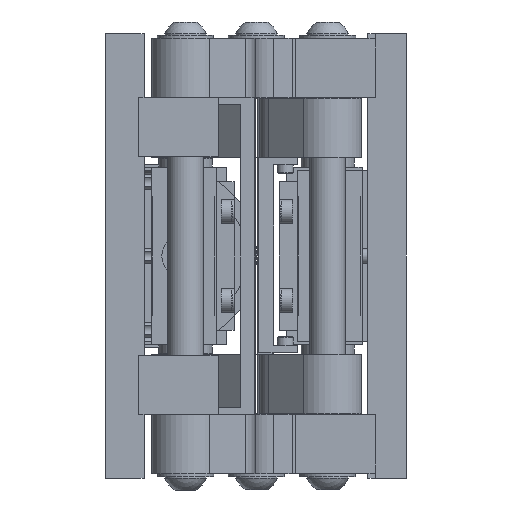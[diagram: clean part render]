
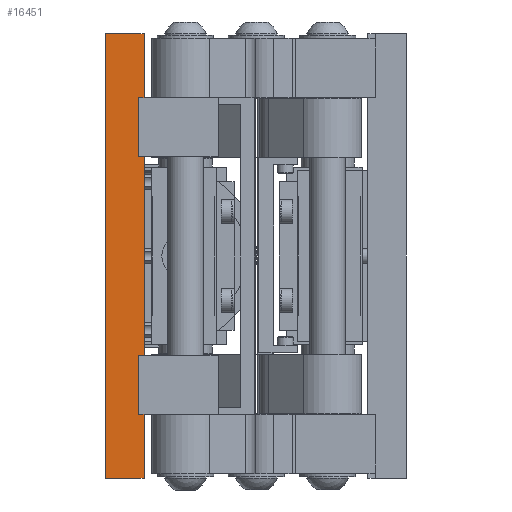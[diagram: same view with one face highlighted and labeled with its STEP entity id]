
A CAD part, left-side view. The second image highlights one B-rep face of the part: STEP entity #16451.
In plain terms, the highlighted planar face has unit normal (-1, 0, 0).
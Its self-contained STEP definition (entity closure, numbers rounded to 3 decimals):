
#213 = FACE_OUTER_BOUND ( 'NONE', #9180, .T. ) ;
#2365 = CARTESIAN_POINT ( 'NONE',  ( -188.243, 72.38, -53.5 ) ) ;
#2387 = CARTESIAN_POINT ( 'NONE',  ( -188.243, 83.38, -75. ) ) ;
#2402 = CARTESIAN_POINT ( 'NONE',  ( -188.243, 70.38, -53.5 ) ) ;
#2577 = CARTESIAN_POINT ( 'NONE',  ( -188.243, 70.38, -75. ) ) ;
#2586 = CARTESIAN_POINT ( 'NONE',  ( -188.243, 70.38, 75. ) ) ;
#2592 = CARTESIAN_POINT ( 'NONE',  ( -188.243, 72.38, -33.5 ) ) ;
#2593 = CARTESIAN_POINT ( 'NONE',  ( -188.243, 72.38, 53.5 ) ) ;
#2596 = CARTESIAN_POINT ( 'NONE',  ( -188.243, 83.38, 75. ) ) ;
#2599 = CARTESIAN_POINT ( 'NONE',  ( -188.243, 72.38, 33.5 ) ) ;
#2611 = CARTESIAN_POINT ( 'NONE',  ( -188.243, 70.38, 53.5 ) ) ;
#2612 = CARTESIAN_POINT ( 'NONE',  ( -188.243, 70.38, 33.5 ) ) ;
#4970 = LINE ( 'NONE', #12891, #4973 ) ;
#4973 = VECTOR ( 'NONE', #12893, 1000. ) ;
#4976 = LINE ( 'NONE', #12906, #4977 ) ;
#4977 = VECTOR ( 'NONE', #12907, 1000. ) ;
#4996 = LINE ( 'NONE', #12956, #5005 ) ;
#5005 = VECTOR ( 'NONE', #12968, 1000. ) ;
#5014 = LINE ( 'NONE', #12985, #5016 ) ;
#5016 = VECTOR ( 'NONE', #12982, 1000. ) ;
#5036 = LINE ( 'NONE', #13049, #5038 ) ;
#5038 = VECTOR ( 'NONE', #13042, 1000. ) ;
#5048 = LINE ( 'NONE', #13091, #5056 ) ;
#5056 = VECTOR ( 'NONE', #13103, 1000. ) ;
#5061 = LINE ( 'NONE', #13119, #5068 ) ;
#5067 = LINE ( 'NONE', #13124, #5074 ) ;
#5068 = VECTOR ( 'NONE', #13123, 1000. ) ;
#5069 = LINE ( 'NONE', #13132, #5070 ) ;
#5070 = VECTOR ( 'NONE', #13133, 1000. ) ;
#5071 = LINE ( 'NONE', #13144, #5082 ) ;
#5074 = VECTOR ( 'NONE', #13137, 1000. ) ;
#5075 = LINE ( 'NONE', #13142, #5076 ) ;
#5076 = VECTOR ( 'NONE', #13143, 1000. ) ;
#5077 = LINE ( 'NONE', #13151, #5078 ) ;
#5078 = VECTOR ( 'NONE', #13152, 1000. ) ;
#5082 = VECTOR ( 'NONE', #13155, 1000. ) ;
#9180 = EDGE_LOOP ( 'NONE', ( #18112, #18114, #18116, #18117, #18119, #18121, #18123, #18125, #29560, #29561, #29562, #29563 ) ) ;
#12891 = CARTESIAN_POINT ( 'NONE',  ( -188.243, 83.38, -53.5 ) ) ;
#12893 = DIRECTION ( 'NONE',  ( 0., 1., 0. ) ) ;
#12906 = CARTESIAN_POINT ( 'NONE',  ( -188.243, 83.38, -75. ) ) ;
#12907 = DIRECTION ( 'NONE',  ( 0., -1., 0. ) ) ;
#12956 = CARTESIAN_POINT ( 'NONE',  ( -188.243, 83.38, 75. ) ) ;
#12968 = DIRECTION ( 'NONE',  ( 0., -1., 0. ) ) ;
#12982 = DIRECTION ( 'NONE',  ( 0., -1., 0. ) ) ;
#12985 = CARTESIAN_POINT ( 'NONE',  ( -188.243, 83.38, 53.5 ) ) ;
#13042 = DIRECTION ( 'NONE',  ( 0., 0., -1. ) ) ;
#13049 = CARTESIAN_POINT ( 'NONE',  ( -188.243, 72.38, 75. ) ) ;
#13091 = CARTESIAN_POINT ( 'NONE',  ( -188.243, 83.38, 33.5 ) ) ;
#13103 = DIRECTION ( 'NONE',  ( 0., 1., 0. ) ) ;
#13119 = CARTESIAN_POINT ( 'NONE',  ( -188.243, 83.38, -33.5 ) ) ;
#13123 = DIRECTION ( 'NONE',  ( 0., -1., 0. ) ) ;
#13124 = CARTESIAN_POINT ( 'NONE',  ( -188.243, 70.38, 75. ) ) ;
#13132 = CARTESIAN_POINT ( 'NONE',  ( -188.243, 72.38, 75. ) ) ;
#13133 = DIRECTION ( 'NONE',  ( 0., 0., -1. ) ) ;
#13137 = DIRECTION ( 'NONE',  ( 0., 0., 1. ) ) ;
#13142 = CARTESIAN_POINT ( 'NONE',  ( -188.243, 70.38, 75. ) ) ;
#13143 = DIRECTION ( 'NONE',  ( 0., 0., 1. ) ) ;
#13144 = CARTESIAN_POINT ( 'NONE',  ( -188.243, 70.38, 75. ) ) ;
#13151 = CARTESIAN_POINT ( 'NONE',  ( -188.243, 83.38, 75. ) ) ;
#13152 = DIRECTION ( 'NONE',  ( 0., 0., 1. ) ) ;
#13155 = DIRECTION ( 'NONE',  ( 0., 0., 1. ) ) ;
#16451 = ADVANCED_FACE ( 'NONE', ( #213 ), #33881, .F. ) ;
#17506 = VERTEX_POINT ( 'NONE', #2365 ) ;
#17521 = VERTEX_POINT ( 'NONE', #2387 ) ;
#17531 = VERTEX_POINT ( 'NONE', #2402 ) ;
#17643 = VERTEX_POINT ( 'NONE', #2577 ) ;
#17649 = VERTEX_POINT ( 'NONE', #2586 ) ;
#17652 = VERTEX_POINT ( 'NONE', #2592 ) ;
#17654 = VERTEX_POINT ( 'NONE', #2593 ) ;
#17656 = VERTEX_POINT ( 'NONE', #2596 ) ;
#17658 = VERTEX_POINT ( 'NONE', #2599 ) ;
#17666 = VERTEX_POINT ( 'NONE', #2611 ) ;
#17667 = VERTEX_POINT ( 'NONE', #2612 ) ;
#18112 = ORIENTED_EDGE ( 'NONE', *, *, #18971, .F. ) ;
#18114 = ORIENTED_EDGE ( 'NONE', *, *, #18969, .T. ) ;
#18116 = ORIENTED_EDGE ( 'NONE', *, *, #18973, .T. ) ;
#18117 = ORIENTED_EDGE ( 'NONE', *, *, #18961, .T. ) ;
#18119 = ORIENTED_EDGE ( 'NONE', *, *, #18947, .F. ) ;
#18121 = ORIENTED_EDGE ( 'NONE', *, *, #18927, .T. ) ;
#18123 = ORIENTED_EDGE ( 'NONE', *, *, #18975, .T. ) ;
#18125 = ORIENTED_EDGE ( 'NONE', *, *, #18919, .F. ) ;
#18895 = EDGE_CURVE ( 'NONE', #17531, #17506, #4970, .T. ) ;
#18899 = EDGE_CURVE ( 'NONE', #17521, #17643, #4976, .T. ) ;
#18919 = EDGE_CURVE ( 'NONE', #17656, #17649, #4996, .T. ) ;
#18927 = EDGE_CURVE ( 'NONE', #17654, #17666, #5014, .T. ) ;
#18947 = EDGE_CURVE ( 'NONE', #17654, #17658, #5036, .T. ) ;
#18961 = EDGE_CURVE ( 'NONE', #17667, #17658, #5048, .T. ) ;
#18969 = EDGE_CURVE ( 'NONE', #17652, #30277, #5061, .T. ) ;
#18971 = EDGE_CURVE ( 'NONE', #17652, #17506, #5069, .T. ) ;
#18973 = EDGE_CURVE ( 'NONE', #30277, #17667, #5067, .T. ) ;
#18975 = EDGE_CURVE ( 'NONE', #17666, #17649, #5075, .T. ) ;
#18977 = EDGE_CURVE ( 'NONE', #17521, #17656, #5077, .T. ) ;
#18979 = EDGE_CURVE ( 'NONE', #17643, #17531, #5071, .T. ) ;
#24016 = CARTESIAN_POINT ( 'NONE',  ( -188.243, 70.38, -33.5 ) ) ;
#29560 = ORIENTED_EDGE ( 'NONE', *, *, #18977, .F. ) ;
#29561 = ORIENTED_EDGE ( 'NONE', *, *, #18899, .T. ) ;
#29562 = ORIENTED_EDGE ( 'NONE', *, *, #18979, .T. ) ;
#29563 = ORIENTED_EDGE ( 'NONE', *, *, #18895, .T. ) ;
#30277 = VERTEX_POINT ( 'NONE', #24016 ) ;
#32328 = AXIS2_PLACEMENT_3D ( 'NONE', #33876, #33884, #33885 ) ;
#33876 = CARTESIAN_POINT ( 'NONE',  ( -188.243, 83.38, 75. ) ) ;
#33881 = PLANE ( 'NONE',  #32328 ) ;
#33884 = DIRECTION ( 'NONE',  ( 1., 0., 0. ) ) ;
#33885 = DIRECTION ( 'NONE',  ( 0., 0., -1. ) ) ;
